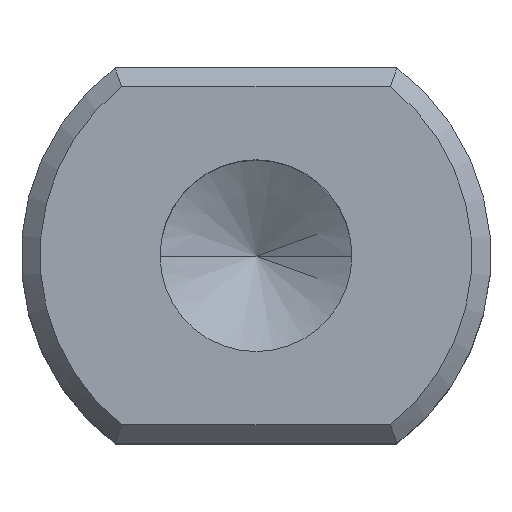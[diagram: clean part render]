
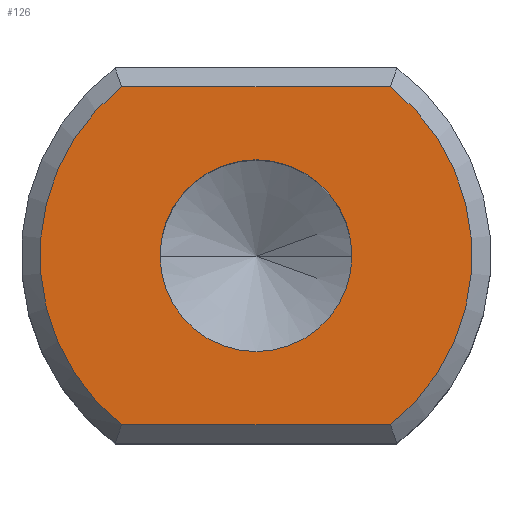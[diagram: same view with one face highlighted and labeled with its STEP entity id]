
A CAD part, top view. The second image highlights one B-rep face of the part: STEP entity #126.
In plain terms, the highlighted planar face has unit normal (0, 0, 1).
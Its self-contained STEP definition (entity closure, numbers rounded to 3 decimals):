
#7 = EDGE_LOOP ( 'NONE', ( #645, #638 ) ) ;
#10 = ORIENTED_EDGE ( 'NONE', *, *, #607, .T. ) ;
#33 = PLANE ( 'NONE',  #202 ) ;
#76 = DIRECTION ( 'NONE',  ( 0., 1., 0. ) ) ;
#88 = DIRECTION ( 'NONE',  ( 0., 0., 1. ) ) ;
#94 = EDGE_CURVE ( 'NONE', #108, #440, #437, .T. ) ;
#108 = VERTEX_POINT ( 'NONE', #134 ) ;
#111 = CARTESIAN_POINT ( 'NONE',  ( -3.579, -4.5, 0. ) ) ;
#125 = VECTOR ( 'NONE', #708, 1000. ) ;
#126 = ADVANCED_FACE ( 'NONE', ( #737, #510 ), #33, .F. ) ;
#134 = CARTESIAN_POINT ( 'NONE',  ( 2.553, 0., 0. ) ) ;
#136 = DIRECTION ( 'NONE',  ( 1., 0., 0. ) ) ;
#137 = CARTESIAN_POINT ( 'NONE',  ( 0., 4.5, 0. ) ) ;
#166 = AXIS2_PLACEMENT_3D ( 'NONE', #716, #258, #136 ) ;
#168 = ORIENTED_EDGE ( 'NONE', *, *, #653, .T. ) ;
#195 = CARTESIAN_POINT ( 'NONE',  ( 3.579, 4.5, 0. ) ) ;
#202 = AXIS2_PLACEMENT_3D ( 'NONE', #378, #498, #450 ) ;
#223 = EDGE_CURVE ( 'NONE', #440, #108, #674, .T. ) ;
#232 = ORIENTED_EDGE ( 'NONE', *, *, #553, .T. ) ;
#244 = DIRECTION ( 'NONE',  ( 0., 0., 1. ) ) ;
#258 = DIRECTION ( 'NONE',  ( 0., 0., 1. ) ) ;
#271 = CIRCLE ( 'NONE', #732, 5.75 ) ;
#291 = VERTEX_POINT ( 'NONE', #459 ) ;
#327 = DIRECTION ( 'NONE',  ( 1., 0., 0. ) ) ;
#345 = AXIS2_PLACEMENT_3D ( 'NONE', #438, #88, #327 ) ;
#356 = LINE ( 'NONE', #474, #125 ) ;
#364 = CARTESIAN_POINT ( 'NONE',  ( 0., 0., 0. ) ) ;
#378 = CARTESIAN_POINT ( 'NONE',  ( 0., 0., 0. ) ) ;
#437 = CIRCLE ( 'NONE', #166, 2.553 ) ;
#438 = CARTESIAN_POINT ( 'NONE',  ( 0., 0., 0. ) ) ;
#440 = VERTEX_POINT ( 'NONE', #515 ) ;
#450 = DIRECTION ( 'NONE',  ( 0., 1., 0. ) ) ;
#459 = CARTESIAN_POINT ( 'NONE',  ( -3.579, 4.5, 0. ) ) ;
#470 = VERTEX_POINT ( 'NONE', #111 ) ;
#474 = CARTESIAN_POINT ( 'NONE',  ( 0., -4.5, 0. ) ) ;
#484 = DIRECTION ( 'NONE',  ( 0., 1., 0. ) ) ;
#498 = DIRECTION ( 'NONE',  ( 0., 0., -1. ) ) ;
#510 = FACE_OUTER_BOUND ( 'NONE', #600, .T. ) ;
#515 = CARTESIAN_POINT ( 'NONE',  ( -2.553, 0., 0. ) ) ;
#537 = VERTEX_POINT ( 'NONE', #644 ) ;
#543 = LINE ( 'NONE', #137, #742 ) ;
#553 = EDGE_CURVE ( 'NONE', #470, #537, #356, .T. ) ;
#592 = ORIENTED_EDGE ( 'NONE', *, *, #618, .T. ) ;
#598 = DIRECTION ( 'NONE',  ( 0., 0., 1. ) ) ;
#600 = EDGE_LOOP ( 'NONE', ( #592, #232, #10, #168 ) ) ;
#603 = CIRCLE ( 'NONE', #702, 5.75 ) ;
#606 = DIRECTION ( 'NONE',  ( -1., 0., 0. ) ) ;
#607 = EDGE_CURVE ( 'NONE', #537, #610, #271, .T. ) ;
#610 = VERTEX_POINT ( 'NONE', #195 ) ;
#618 = EDGE_CURVE ( 'NONE', #291, #470, #603, .T. ) ;
#638 = ORIENTED_EDGE ( 'NONE', *, *, #223, .F. ) ;
#644 = CARTESIAN_POINT ( 'NONE',  ( 3.579, -4.5, 0. ) ) ;
#645 = ORIENTED_EDGE ( 'NONE', *, *, #94, .F. ) ;
#653 = EDGE_CURVE ( 'NONE', #610, #291, #543, .T. ) ;
#674 = CIRCLE ( 'NONE', #345, 2.553 ) ;
#702 = AXIS2_PLACEMENT_3D ( 'NONE', #723, #598, #76 ) ;
#708 = DIRECTION ( 'NONE',  ( 1., 0., 0. ) ) ;
#716 = CARTESIAN_POINT ( 'NONE',  ( 0., 0., 0. ) ) ;
#723 = CARTESIAN_POINT ( 'NONE',  ( 0., 0., 0. ) ) ;
#732 = AXIS2_PLACEMENT_3D ( 'NONE', #364, #244, #484 ) ;
#737 = FACE_BOUND ( 'NONE', #7, .T. ) ;
#742 = VECTOR ( 'NONE', #606, 1000. ) ;
